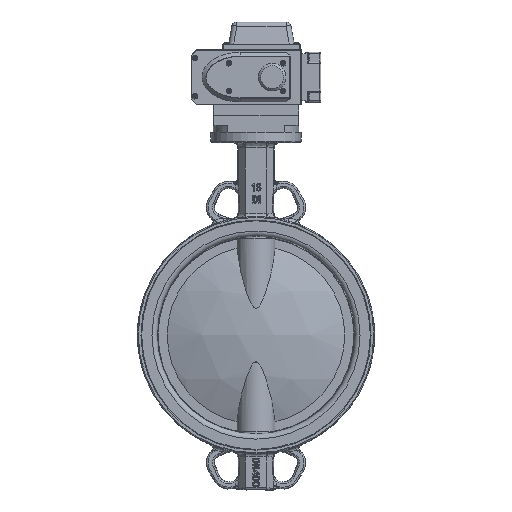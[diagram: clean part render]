
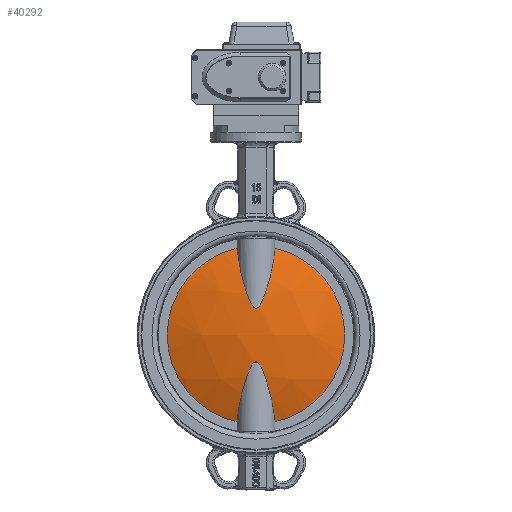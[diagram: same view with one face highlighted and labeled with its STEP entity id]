
A CAD part, top view. The second image highlights one B-rep face of the part: STEP entity #40292.
In plain terms, the highlighted spherical face has radius 467.368 mm.
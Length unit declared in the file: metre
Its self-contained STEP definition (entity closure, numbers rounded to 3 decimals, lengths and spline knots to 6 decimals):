
#1103=SPHERICAL_SURFACE('',#43618,0.467368);
#9179=CIRCLE('',#43619,0.175);
#9180=CIRCLE('',#43620,0.175);
#12040=FACE_OUTER_BOUND('',#14460,.T.);
#14460=EDGE_LOOP('',(#33072,#33073,#33074,#33075));
#16565=B_SPLINE_CURVE_WITH_KNOTS('',3,(#129491,#129492,#129493,#129494,
#129495,#129496,#129497,#129498,#129499,#129500,#129501,#129502,#129503,
#129504,#129505,#129506,#129507,#129508,#129509,#129510,#129511,#129512,
#129513,#129514,#129515,#129516,#129517,#129518,#129519,#129520,#129521,
#129522,#129523,#129524,#129525,#129526,#129527,#129528,#129529,#129530,
#129531,#129532),.UNSPECIFIED.,.F.,.F.,(4,2,2,2,2,2,2,2,2,2,2,2,2,2,2,2,
2,2,2,2,4),(20.589448,21.333184,23.835771,26.338358,
28.840945,30.415416,31.202652,31.989888,32.464409,
32.70167,32.938931,33.176191,33.413452,33.887974,
34.67521,35.462445,37.036917,39.539504,42.042091,
44.544678,45.288414),.UNSPECIFIED.);
#16566=B_SPLINE_CURVE_WITH_KNOTS('',3,(#129536,#129537,#129538,#129539,
#129540,#129541,#129542,#129543,#129544,#129545,#129546,#129547,#129548,
#129549,#129550,#129551,#129552,#129553,#129554,#129555,#129556,#129557,
#129558,#129559,#129560,#129561,#129562,#129563,#129564,#129565,#129566,
#129567,#129568,#129569,#129570,#129571,#129572,#129573,#129574,#129575,
#129576,#129577),.UNSPECIFIED.,.F.,.F.,(4,2,2,2,2,2,2,2,2,2,2,2,2,2,2,2,
2,2,2,2,4),(1.758851,2.502587,5.005174,7.507761,
10.010348,11.58482,12.372055,13.159291,13.633813,
13.871073,14.108334,14.345595,14.582856,15.057377,
15.844613,16.631849,18.20632,20.708907,23.211494,
25.714081,26.457817),.UNSPECIFIED.);
#18745=VERTEX_POINT('',#129489);
#18746=VERTEX_POINT('',#129490);
#18747=VERTEX_POINT('',#129533);
#18748=VERTEX_POINT('',#129535);
#23810=EDGE_CURVE('',#18745,#18746,#16565,.T.);
#23811=EDGE_CURVE('',#18745,#18747,#9179,.T.);
#23812=EDGE_CURVE('',#18748,#18747,#16566,.T.);
#23813=EDGE_CURVE('',#18748,#18746,#9180,.T.);
#33072=ORIENTED_EDGE('',*,*,#23810,.F.);
#33073=ORIENTED_EDGE('',*,*,#23811,.T.);
#33074=ORIENTED_EDGE('',*,*,#23812,.F.);
#33075=ORIENTED_EDGE('',*,*,#23813,.T.);
#40292=ADVANCED_FACE('',(#12040),#1103,.T.);
#43618=AXIS2_PLACEMENT_3D('',#129488,#51093,#51094);
#43619=AXIS2_PLACEMENT_3D('',#129534,#51095,#51096);
#43620=AXIS2_PLACEMENT_3D('',#129578,#51097,#51098);
#51093=DIRECTION('center_axis',(0.,0.,1.));
#51094=DIRECTION('ref_axis',(1.,0.,0.));
#51095=DIRECTION('center_axis',(0.,1.,0.));
#51096=DIRECTION('ref_axis',(0.,0.,1.));
#51097=DIRECTION('center_axis',(0.,1.,0.));
#51098=DIRECTION('ref_axis',(0.,0.,1.));
#129488=CARTESIAN_POINT('Origin',(0.,-0.426368,0.));
#129489=CARTESIAN_POINT('',(0.03735,0.007,0.170968));
#129490=CARTESIAN_POINT('',(-0.03735,0.007,0.170968));
#129491=CARTESIAN_POINT('Ctrl Pts',(0.03735,0.007,
0.170968));
#129492=CARTESIAN_POINT('Ctrl Pts',(0.037168,0.007968,
0.168553));
#129493=CARTESIAN_POINT('Ctrl Pts',(0.03695,0.008926,
0.166114));
#129494=CARTESIAN_POINT('Ctrl Pts',(0.035842,0.013046,
0.15538));
#129495=CARTESIAN_POINT('Ctrl Pts',(0.034585,0.016064,
0.14688));
#129496=CARTESIAN_POINT('Ctrl Pts',(0.031427,0.021598,
0.129825));
#129497=CARTESIAN_POINT('Ctrl Pts',(0.029529,0.024114,
0.12127));
#129498=CARTESIAN_POINT('Ctrl Pts',(0.025267,0.028548,
0.104523));
#129499=CARTESIAN_POINT('Ctrl Pts',(0.02291,0.030467,
0.09633));
#129500=CARTESIAN_POINT('Ctrl Pts',(0.018764,0.033099,
0.083658));
#129501=CARTESIAN_POINT('Ctrl Pts',(0.016887,0.03412,
0.078303));
#129502=CARTESIAN_POINT('Ctrl Pts',(0.01369,0.035467,
0.070441));
#129503=CARTESIAN_POINT('Ctrl Pts',(0.012561,0.035886,
0.06785));
#129504=CARTESIAN_POINT('Ctrl Pts',(0.010131,0.036647,
0.062891));
#129505=CARTESIAN_POINT('Ctrl Pts',(0.008839,0.036989,
0.060516));
#129506=CARTESIAN_POINT('Ctrl Pts',(0.006456,0.037459,
0.057083));
#129507=CARTESIAN_POINT('Ctrl Pts',(0.005385,0.037637,
0.055734));
#129508=CARTESIAN_POINT('Ctrl Pts',(0.003553,0.037839,
0.054159));
#129509=CARTESIAN_POINT('Ctrl Pts',(0.002905,0.037895,
0.05371));
#129510=CARTESIAN_POINT('Ctrl Pts',(0.001524,0.037976,
0.053066));
#129511=CARTESIAN_POINT('Ctrl Pts',(0.000791,0.038,0.05287));
#129512=CARTESIAN_POINT('Ctrl Pts',(-0.000791,0.038,0.05287));
#129513=CARTESIAN_POINT('Ctrl Pts',(-0.001524,0.037976,
0.053066));
#129514=CARTESIAN_POINT('Ctrl Pts',(-0.002905,0.037895,
0.05371));
#129515=CARTESIAN_POINT('Ctrl Pts',(-0.003553,0.037839,
0.054159));
#129516=CARTESIAN_POINT('Ctrl Pts',(-0.005385,0.037637,
0.055734));
#129517=CARTESIAN_POINT('Ctrl Pts',(-0.006456,0.037459,
0.057083));
#129518=CARTESIAN_POINT('Ctrl Pts',(-0.008839,0.036989,
0.060516));
#129519=CARTESIAN_POINT('Ctrl Pts',(-0.010131,0.036647,
0.062891));
#129520=CARTESIAN_POINT('Ctrl Pts',(-0.012561,0.035886,
0.06785));
#129521=CARTESIAN_POINT('Ctrl Pts',(-0.01369,0.035467,
0.070441));
#129522=CARTESIAN_POINT('Ctrl Pts',(-0.016887,0.03412,
0.078303));
#129523=CARTESIAN_POINT('Ctrl Pts',(-0.018764,0.033099,
0.083658));
#129524=CARTESIAN_POINT('Ctrl Pts',(-0.02291,0.030467,
0.09633));
#129525=CARTESIAN_POINT('Ctrl Pts',(-0.025267,0.028548,
0.104523));
#129526=CARTESIAN_POINT('Ctrl Pts',(-0.029529,0.024114,
0.12127));
#129527=CARTESIAN_POINT('Ctrl Pts',(-0.031427,0.021598,
0.129825));
#129528=CARTESIAN_POINT('Ctrl Pts',(-0.034585,0.016064,
0.14688));
#129529=CARTESIAN_POINT('Ctrl Pts',(-0.035842,0.013046,
0.15538));
#129530=CARTESIAN_POINT('Ctrl Pts',(-0.03695,0.008926,
0.166114));
#129531=CARTESIAN_POINT('Ctrl Pts',(-0.037168,0.007968,
0.168553));
#129532=CARTESIAN_POINT('Ctrl Pts',(-0.03735,0.007,
0.170968));
#129533=CARTESIAN_POINT('',(0.03735,0.007,-0.170968));
#129534=CARTESIAN_POINT('Origin',(0.,0.007,0.));
#129535=CARTESIAN_POINT('',(-0.03735,0.007,-0.170968));
#129536=CARTESIAN_POINT('Ctrl Pts',(-0.03735,0.007,
-0.170968));
#129537=CARTESIAN_POINT('Ctrl Pts',(-0.037168,0.007968,
-0.168553));
#129538=CARTESIAN_POINT('Ctrl Pts',(-0.03695,0.008926,
-0.166114));
#129539=CARTESIAN_POINT('Ctrl Pts',(-0.035842,0.013046,
-0.15538));
#129540=CARTESIAN_POINT('Ctrl Pts',(-0.034585,0.016064,
-0.14688));
#129541=CARTESIAN_POINT('Ctrl Pts',(-0.031427,0.021598,
-0.129825));
#129542=CARTESIAN_POINT('Ctrl Pts',(-0.029529,0.024114,
-0.12127));
#129543=CARTESIAN_POINT('Ctrl Pts',(-0.025267,0.028548,
-0.104523));
#129544=CARTESIAN_POINT('Ctrl Pts',(-0.02291,0.030467,
-0.09633));
#129545=CARTESIAN_POINT('Ctrl Pts',(-0.018764,0.033099,
-0.083658));
#129546=CARTESIAN_POINT('Ctrl Pts',(-0.016887,0.03412,
-0.078303));
#129547=CARTESIAN_POINT('Ctrl Pts',(-0.01369,0.035467,
-0.070441));
#129548=CARTESIAN_POINT('Ctrl Pts',(-0.012561,0.035886,
-0.06785));
#129549=CARTESIAN_POINT('Ctrl Pts',(-0.010131,0.036647,
-0.062891));
#129550=CARTESIAN_POINT('Ctrl Pts',(-0.008839,0.036989,
-0.060516));
#129551=CARTESIAN_POINT('Ctrl Pts',(-0.006456,0.037459,
-0.057083));
#129552=CARTESIAN_POINT('Ctrl Pts',(-0.005385,0.037637,
-0.055734));
#129553=CARTESIAN_POINT('Ctrl Pts',(-0.003553,0.037839,
-0.054159));
#129554=CARTESIAN_POINT('Ctrl Pts',(-0.002905,0.037895,
-0.05371));
#129555=CARTESIAN_POINT('Ctrl Pts',(-0.001524,0.037976,
-0.053066));
#129556=CARTESIAN_POINT('Ctrl Pts',(-0.000791,0.038,-0.05287));
#129557=CARTESIAN_POINT('Ctrl Pts',(0.000791,0.038,-0.05287));
#129558=CARTESIAN_POINT('Ctrl Pts',(0.001524,0.037976,
-0.053066));
#129559=CARTESIAN_POINT('Ctrl Pts',(0.002905,0.037895,
-0.05371));
#129560=CARTESIAN_POINT('Ctrl Pts',(0.003553,0.037839,
-0.054159));
#129561=CARTESIAN_POINT('Ctrl Pts',(0.005385,0.037637,
-0.055734));
#129562=CARTESIAN_POINT('Ctrl Pts',(0.006456,0.037459,
-0.057083));
#129563=CARTESIAN_POINT('Ctrl Pts',(0.008839,0.036989,
-0.060516));
#129564=CARTESIAN_POINT('Ctrl Pts',(0.010131,0.036647,
-0.062891));
#129565=CARTESIAN_POINT('Ctrl Pts',(0.012561,0.035886,
-0.06785));
#129566=CARTESIAN_POINT('Ctrl Pts',(0.01369,0.035467,
-0.070441));
#129567=CARTESIAN_POINT('Ctrl Pts',(0.016887,0.03412,
-0.078303));
#129568=CARTESIAN_POINT('Ctrl Pts',(0.018764,0.033099,
-0.083658));
#129569=CARTESIAN_POINT('Ctrl Pts',(0.02291,0.030467,
-0.09633));
#129570=CARTESIAN_POINT('Ctrl Pts',(0.025267,0.028548,
-0.104523));
#129571=CARTESIAN_POINT('Ctrl Pts',(0.029529,0.024114,
-0.12127));
#129572=CARTESIAN_POINT('Ctrl Pts',(0.031427,0.021598,
-0.129825));
#129573=CARTESIAN_POINT('Ctrl Pts',(0.034585,0.016064,
-0.14688));
#129574=CARTESIAN_POINT('Ctrl Pts',(0.035842,0.013046,
-0.15538));
#129575=CARTESIAN_POINT('Ctrl Pts',(0.03695,0.008926,
-0.166114));
#129576=CARTESIAN_POINT('Ctrl Pts',(0.037168,0.007968,
-0.168553));
#129577=CARTESIAN_POINT('Ctrl Pts',(0.03735,0.007,
-0.170968));
#129578=CARTESIAN_POINT('Origin',(0.,0.007,0.));
